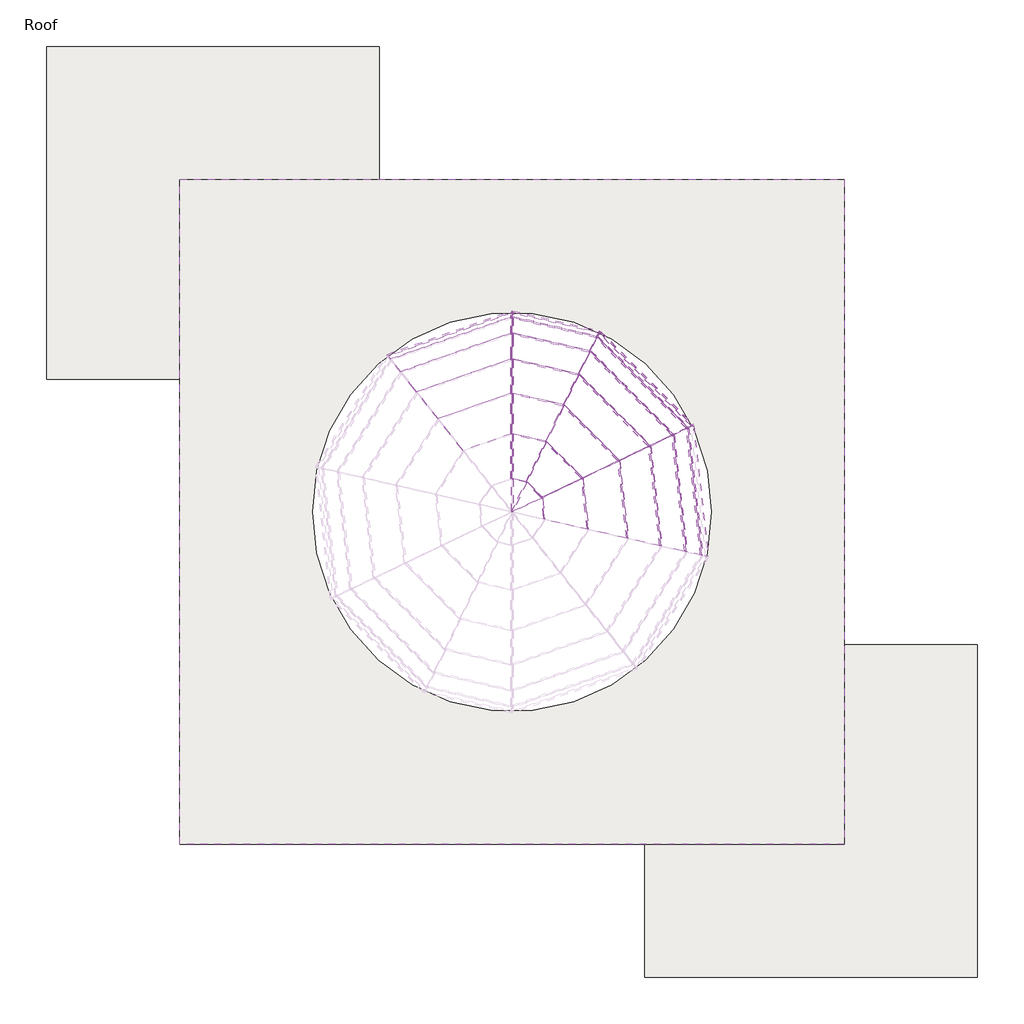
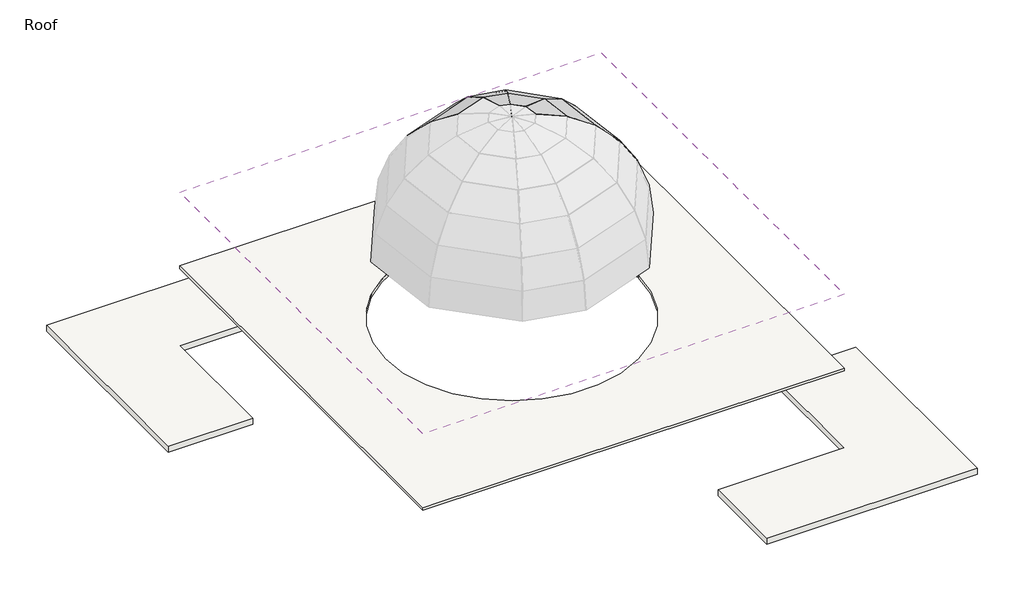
# One storey, part 3 of 3: 48 members, 23 plates, 3 roofs, 1 slab.
"""IFC4 building model written with IfcOpenShell, lengths in millimetres."""

from ifc_helpers import new_model, si_unit, point, frame, frame_2d, origin, place, context, project, spatial, polyline, circle_curve, trimmed, segment, composite_curve, outline, extrude, transform, mapped, element, save
from components import member_4177733f, member_2d90878b, member_073c649d, member_50d5fd5e, member_4b421d57, member_97883678, member_c2c97b2d, member_c267af09, member_f6a73803, member_19cfab1d, member_88023728, member_fe320f98, member_87472d51, member_b7d01548, member_1e756ab6, member_ee5d5078, member_3071623d, member_777b2020, member_0c982175, member_dd57c742, member_2fdd2993, member_88dc7c51, member_19a4d049, member_8c9737d1, member_600e1e00, member_9a5a8c15, member_656fa572, member_e5dce827, member_edda2d83, member_8e37f879, member_db3310ab, member_615ff259, system_panel_glazed_566e1773, system_panel_glazed_3fa45d0b, system_panel_glazed_15b653d3, system_panel_glazed_2a1648c4, system_panel_glazed_7bc4ba0a, system_panel_glazed_a49b1de4, system_panel_glazed_db51fd20, system_panel_glazed_a2729e2c, system_panel_glazed_c7a8e9dd, system_panel_glazed_d52d0d09, system_panel_glazed_54dd6e29, system_panel_glazed_bc119c3e

model = new_model("IFC4")

# Units and contexts
model_context = context("Model", 3, world=origin())
ifc_project = project(units=[si_unit("LENGTHUNIT", "METRE", prefix="MILLI")], contexts=[model_context])

# Site, building, storey
site = spatial("IfcSite", under=ifc_project)
building = spatial("IfcBuilding", under=site)
storey = spatial("IfcBuildingStorey", under=building, Name="Roof", Elevation=15240.0)

# Members
placement = place(None, origin())
member_shape = member_4177733f(model_context)
element("IfcMember", 1, ObjectType="Rectangular Mullion : 1\" Square", at=placement, inside=storey, context=model_context, shape_type="MappedRepresentation", body=[
    mapped(member_shape, transform((221.3369868, 4520.9964781, 18288.0), x_axis=(-0.03636859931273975, 0.10404009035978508, -0.9939079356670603), y_axis=(-0.3279728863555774, 0.9382359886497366, 0.11021349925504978), z_axis=(0.9439868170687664, 0.3299831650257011, 0.0))),
])
member_2_shape = member_2d90878b(model_context)
element("IfcMember", 2, ObjectType="Rectangular Mullion : 1\" Square", at=placement, inside=storey, context=model_context, shape_type="MappedRepresentation", body=[
    mapped(member_2_shape, transform((4368.2676656, 1933.3434219, 18288.0), x_axis=(-0.43218840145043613, 0.9017833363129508, 0.0), y_axis=(0.8956251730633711, 0.4292370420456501, 0.11666666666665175), z_axis=(0.10520805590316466, 0.05042198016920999, -0.9931711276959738))),
])
element("IfcMember", 3, ObjectType="Rectangular Mullion : 1\" Square", at=placement, inside=storey, context=model_context, shape_type="MappedRepresentation", body=[
    mapped(member_2_shape, transform((2239.3545662, 4071.6200493, 18288.0), x_axis=(-0.8998779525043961, 0.4361418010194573, 0.0), y_axis=(0.43316344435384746, 0.8937328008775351, 0.1166666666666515), z_axis=(0.05088321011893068, 0.10498576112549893, -0.9931711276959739))),
])
member_3_shape = member_073c649d(model_context)
element("IfcMember", 4, ObjectType="Rectangular Mullion : 1\" Square", at=placement, inside=storey, context=model_context, shape_type="MappedRepresentation", body=[
    mapped(member_3_shape, transform((4257.4338784, 1866.9308952, 19347.514959), x_axis=(-0.24319318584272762, -0.027015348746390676, 0.9696015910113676), y_axis=(0.9636739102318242, 0.10705064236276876, 0.2446890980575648), z_axis=(-0.11040683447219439, 0.9938864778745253, 0.0))),
])
element("IfcMember", 5, ObjectType="Rectangular Mullion : 1\" Square", at=placement, inside=storey, context=model_context, shape_type="MappedRepresentation", body=[
    mapped(member_3_shape, transform((2194.0328868, 3950.6212995, 19347.514959), x_axis=(-0.17340056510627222, -0.1726412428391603, 0.9696015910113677), y_axis=(0.687114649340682, 0.6841057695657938, 0.24468909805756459), z_axis=(-0.7055534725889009, 0.7086566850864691, 0.0))),
])
member_4_shape = member_50d5fd5e(model_context)
element("IfcMember", 6, ObjectType="Rectangular Mullion : 1\" Square", at=placement, inside=storey, context=model_context, shape_type="MappedRepresentation", body=[
    mapped(member_4_shape, transform((270.0703145, 4399.234973, 19347.514959), x_axis=(-0.053123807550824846, -0.23141269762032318, 0.971404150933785), y_axis=(0.21734508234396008, 0.9467772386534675, 0.23743204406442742), z_axis=(-0.9746481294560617, 0.22374320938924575, 0.0))),
])
member_5_shape = member_4b421d57(model_context)
element("IfcMember", 7, ObjectType="Rectangular Mullion : 1\" Square", at=placement, inside=storey, context=model_context, shape_type="MappedRepresentation", body=[
    mapped(member_5_shape, transform((3926.8366404, 1708.4889657, 20349.3452147), x_axis=(-0.46890780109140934, -0.05208907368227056, 0.8817098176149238), y_axis=(0.8763194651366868, 0.09734678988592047, 0.47179211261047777), z_axis=(-0.11040683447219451, 0.9938864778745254, 0.0))),
])
element("IfcMember", 8, ObjectType="Rectangular Mullion : 1\" Square", at=placement, inside=storey, context=model_context, shape_type="MappedRepresentation", body=[
    mapped(member_5_shape, transform((2034.1416258, 3620.7225825, 20349.3452147), x_axis=(-0.3343386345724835, -0.3328745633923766, 0.8817098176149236), y_axis=(0.624829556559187, 0.6220934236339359, 0.47179211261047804), z_axis=(-0.7055534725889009, 0.708656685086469, 0.0))),
])
member_6_shape = member_97883678(model_context)
element("IfcMember", 9, ObjectType="Rectangular Mullion : 1\" Square", at=placement, inside=storey, context=model_context, shape_type="MappedRepresentation", body=[
    mapped(member_6_shape, transform((270.0703145, 4032.6311285, 20349.3452147), x_axis=(-0.10295150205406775, -0.44846719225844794, 0.8878503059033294), y_axis=(0.19865047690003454, 0.8653416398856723, 0.460132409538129), z_axis=(-0.9746481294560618, 0.22374320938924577, 0.0))),
])
member_7_shape = member_c2c97b2d(model_context)
element("IfcMember", 10, ObjectType="Rectangular Mullion : 1\" Square", at=placement, inside=storey, context=model_context, shape_type="MappedRepresentation", body=[
    mapped(member_7_shape, transform((3395.8773015, 1454.021558, 21238.9466754), x_axis=(-0.6628942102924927, -0.07363824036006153, 0.7450829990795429), y_axis=(0.7405279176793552, 0.08226225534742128, 0.6669717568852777), z_axis=(-0.11040683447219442, 0.9938864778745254, 0.0))),
])
element("IfcMember", 11, ObjectType="Rectangular Mullion : 1\" Square", at=placement, inside=storey, context=model_context, shape_type="MappedRepresentation", body=[
    mapped(member_7_shape, transform((1777.3465033, 3090.885111, 21238.9466754), x_axis=(-0.47265399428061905, -0.4705842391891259, 0.7450829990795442), y_axis=(0.5280080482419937, 0.5256958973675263, 0.6669717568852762), z_axis=(-0.705553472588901, 0.708656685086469, 0.0))),
])
member_8_shape = member_c267af09(model_context)
element("IfcMember", 12, ObjectType="Rectangular Mullion : 1\" Square", at=placement, inside=storey, context=model_context, shape_type="MappedRepresentation", body=[
    mapped(member_8_shape, transform((270.0703145, 3443.8429823, 21238.9466754), x_axis=(-0.146568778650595, -0.6384684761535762, 0.7555631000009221), y_axis=(0.16905211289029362, 0.7364081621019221, 0.6550758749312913), z_axis=(-0.9746481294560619, 0.22374320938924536, 0.0))),
])
member_9_shape = member_f6a73803(model_context)
element("IfcMember", 13, ObjectType="Rectangular Mullion : 1\" Square", at=placement, inside=storey, context=model_context, shape_type="MappedRepresentation", body=[
    mapped(member_9_shape, transform((2693.4636479, 1117.3830087, 21967.8854838), x_axis=(-0.8157478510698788, -0.09061813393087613, 0.5712650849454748), y_axis=(0.5677726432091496, 0.06307156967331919, 0.8207656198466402), z_axis=(-0.11040683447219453, 0.9938864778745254, 0.0))),
])
element("IfcMember", 14, ObjectType="Rectangular Mullion : 1\" Square", at=placement, inside=storey, context=model_context, shape_type="MappedRepresentation", body=[
    mapped(member_9_shape, transform((1437.628587, 2389.9555917, 21967.8854838), x_axis=(-0.5816410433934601, -0.5790940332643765, 0.571265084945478), y_axis=(0.40483082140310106, 0.40305806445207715, 0.820765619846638), z_axis=(-0.7055534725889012, 0.7086566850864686, 0.0))),
])
member_10_shape = member_19cfab1d(model_context)
element("IfcMember", 15, ObjectType="Rectangular Mullion : 1\" Square", at=placement, inside=storey, context=model_context, shape_type="MappedRepresentation", body=[
    mapped(member_10_shape, transform((270.0703145, 2664.9267777, 21967.8854838), x_axis=(-0.18169395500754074, -0.791477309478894, 0.5835674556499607), y_axis=(0.13056925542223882, 0.5687729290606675, 0.812064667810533), z_axis=(-0.9746481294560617, 0.22374320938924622, 0.0))),
])
member_11_shape = member_88023728(model_context)
element("IfcMember", 16, ObjectType="Rectangular Mullion : 1\" Square", at=placement, inside=storey, context=model_context, shape_type="MappedRepresentation", body=[
    mapped(member_11_shape, transform((1857.8382007, 716.9014166, 22496.4749713), x_axis=(-0.9225634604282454, -0.10248384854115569, 0.3719861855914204), y_axis=(0.3697120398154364, 0.0410698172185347, 0.9282382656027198), z_axis=(-0.11040683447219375, 0.9938864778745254, 0.0))),
])
element("IfcMember", 17, ObjectType="Rectangular Mullion : 1\" Square", at=placement, inside=storey, context=model_context, shape_type="MappedRepresentation", body=[
    mapped(member_11_shape, transform((1033.4836302, 1556.0957429, 22496.4749713), x_axis=(-0.6578022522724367, -0.6549217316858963, 0.3719861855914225), y_axis=(0.26361049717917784, 0.26245614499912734, 0.9282382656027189), z_axis=(-0.7055534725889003, 0.7086566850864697, 0.0))),
])
member_12_shape = member_fe320f98(model_context)
element("IfcMember", 18, ObjectType="Rectangular Mullion : 1\" Square", at=placement, inside=storey, context=model_context, shape_type="MappedRepresentation", body=[
    mapped(member_12_shape, transform((270.0703145, 1738.2901749, 22496.4749713), x_axis=(-0.20674485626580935, -0.9006015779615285, 0.38232625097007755), y_axis=(0.0855429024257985, 0.3726335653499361, 0.9240274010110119), z_axis=(-0.9746481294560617, 0.22374320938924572, 0.0))),
])
member_13_shape = member_87472d51(model_context)
element("IfcMember", 19, ObjectType="Rectangular Mullion : 1\" Square", at=placement, inside=storey, context=model_context, shape_type="MappedRepresentation", body=[
    mapped(member_13_shape, transform((934.4961231, 274.3807795, 22795.9363771), x_axis=(-0.9814480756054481, -0.10902510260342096, 0.1577124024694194), y_axis=(0.15674822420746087, 0.017412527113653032, 0.9874850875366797), z_axis=(-0.11040683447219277, 0.9938864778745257, 0.0))),
])
element("IfcMember", 20, ObjectType="Rectangular Mullion : 1\" Square", at=placement, inside=storey, context=model_context, shape_type="MappedRepresentation", body=[
    mapped(member_13_shape, transform((586.9150804, 634.7046007, 22795.9363771), x_axis=(-0.6997879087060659, -0.6967235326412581, 0.1577124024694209), y_axis=(0.11176394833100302, 0.11127453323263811, 0.9874850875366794), z_axis=(-0.7055534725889, 0.7086566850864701, 0.0))),
])
member_14_shape = member_b7d01548(model_context)
element("IfcMember", 21, ObjectType="Rectangular Mullion : 1\" Square", at=placement, inside=storey, context=model_context, shape_type="MappedRepresentation", body=[
    mapped(member_14_shape, transform((270.0703145, 714.3833889, 22795.9363771), x_axis=(-0.2207619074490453, -0.9616612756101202, 0.16270147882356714), y_axis=(0.036403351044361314, 0.15857669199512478, 0.986675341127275), z_axis=(-0.9746481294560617, 0.2237432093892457, 0.0))),
])
member_15_shape = member_1e756ab6(model_context)
element("IfcMember", 22, ObjectType="Rectangular Mullion : 1\" Square", at=placement, inside=storey, context=model_context, shape_type="MappedRepresentation", body=[
    mapped(member_15_shape, transform((4359.3071365, 1942.3433618, 18288.0), x_axis=(0.0781035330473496, 0.07776151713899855, -0.9939079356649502), y_axis=(0.7043395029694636, 0.7012551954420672, 0.11021349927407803), z_axis=(0.7055534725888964, -0.7086566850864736, 0.0))),
])
member_16_shape = member_ee5d5078(model_context)
element("IfcMember", 23, ObjectType="Rectangular Mullion : 1\" Square", at=placement, inside=storey, context=model_context, shape_type="MappedRepresentation", body=[
    mapped(member_16_shape, transform((2226.976535, 4074.4615881, 18288.0), x_axis=(0.02545027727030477, 0.11086399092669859, -0.993509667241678), y_axis=(0.22229104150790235, 0.9683223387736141, 0.11374770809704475), z_axis=(0.97464812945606, -0.22374320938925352, 0.0))),
])
member_17_shape = member_3071623d(model_context)
element("IfcMember", 24, ObjectType="Rectangular Mullion : 1\" Square", at=placement, inside=storey, context=model_context, shape_type="MappedRepresentation", body=[
    mapped(member_17_shape, transform((245.314252, 4404.9180505, 19347.514959), x_axis=(0.9446871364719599, 0.3257332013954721, 0.038263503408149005), y_axis=(-0.32797288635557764, 0.9382359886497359, 0.11021349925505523), z_axis=(0.0, -0.1166666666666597, 0.9931711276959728))),
])
member_18_shape = member_777b2020(model_context)
element("IfcMember", 25, ObjectType="Rectangular Mullion : 1\" Square", at=placement, inside=storey, context=model_context, shape_type="MappedRepresentation", body=[
    mapped(member_18_shape, transform((245.314252, 4038.314206, 20349.3452147), x_axis=(0.9501154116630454, 0.2929034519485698, 0.10718335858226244), y_axis=(-0.31189854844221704, 0.8922519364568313, 0.32650540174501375), z_axis=(0.0, -0.343648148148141, 0.9390984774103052))),
])
member_19_shape = member_0c982175(model_context)
element("IfcMember", 26, ObjectType="Rectangular Mullion : 1\" Square", at=placement, inside=storey, context=model_context, shape_type="MappedRepresentation", body=[
    mapped(member_19_shape, transform((245.314252, 3449.5260598, 21238.9466754), x_axis=(0.9600430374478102, 0.23336811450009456, 0.15445610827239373), y_axis=(-0.27985240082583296, 0.8005771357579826, 0.5298668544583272), z_axis=(0.0, -0.5519198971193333, 0.8338971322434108))),
])
member_20_shape = member_dd57c742(model_context)
element("IfcMember", 27, ObjectType="Rectangular Mullion : 1\" Square", at=placement, inside=storey, context=model_context, shape_type="MappedRepresentation", body=[
    mapped(member_20_shape, transform((245.314252, 2670.6098553, 21967.8854838), x_axis=(0.9726395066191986, 0.1587427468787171, 0.169626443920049), y_axis=(-0.23231958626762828, 0.664599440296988, 0.7101656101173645), z_axis=(0.0, -0.7301426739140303, 0.6832947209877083))),
])
member_21_shape = member_2fdd2993(model_context)
element("IfcMember", 28, ObjectType="Rectangular Mullion : 1\" Square", at=placement, inside=storey, context=model_context, shape_type="MappedRepresentation", body=[
    mapped(member_21_shape, transform((245.314252, 1743.9732525, 22496.4749713), x_axis=(0.9853292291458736, 0.08456258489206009, 0.14824128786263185), y_axis=(-0.17066432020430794, 0.4882214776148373, 0.855870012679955), z_axis=(0.0, -0.8686132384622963, 0.4954907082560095))),
])
member_22_shape = member_88dc7c51(model_context)
element("IfcMember", 29, ObjectType="Rectangular Mullion : 1\" Square", at=placement, inside=storey, context=model_context, shape_type="MappedRepresentation", body=[
    mapped(member_22_shape, transform((245.314252, 720.0664665, 22795.9363771), x_axis=(0.995220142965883, 0.027413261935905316, 0.09373035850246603), y_axis=(-0.09765688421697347, 0.2793682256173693, 0.955204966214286), z_axis=(0.0, -0.9597926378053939, 0.2807099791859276))),
])
member_23_shape = member_19a4d049(model_context)
element("IfcMember", 30, ObjectType="Rectangular Mullion : 1\" Square", at=placement, inside=storey, context=model_context, shape_type="MappedRepresentation", body=[
    mapped(member_23_shape, transform((4256.0317116, 1879.5532535, 19347.514959), x_axis=(-0.43218840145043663, 0.9017833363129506, 0.0), y_axis=(0.8468633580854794, 0.40586746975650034, 0.34364814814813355), z_axis=(0.3098961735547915, 0.14852074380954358, -0.9390984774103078))),
])
element("IfcMember", 31, ObjectType="Rectangular Mullion : 1\" Square", at=placement, inside=storey, context=model_context, shape_type="MappedRepresentation", body=[
    mapped(member_23_shape, transform((3925.4344736, 1721.111324, 20349.3452147), x_axis=(-0.4321884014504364, 0.9017833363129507, 0.0), y_axis=(0.7519945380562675, 0.3604006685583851, 0.5519198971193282), z_axis=(0.49771216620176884, 0.2385333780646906, -0.8338971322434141))),
])
element("IfcMember", 32, ObjectType="Rectangular Mullion : 1\" Square", at=placement, inside=storey, context=model_context, shape_type="MappedRepresentation", body=[
    mapped(member_23_shape, transform((3394.4751347, 1466.6439162, 21238.9466754), x_axis=(-0.4321884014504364, 0.9017833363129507, 0.0), y_axis=(0.6161837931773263, 0.2953120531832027, 0.7301426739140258), z_axis=(0.6584304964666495, 0.3155591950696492, -0.6832947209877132))),
])
element("IfcMember", 33, ObjectType="Rectangular Mullion : 1\" Square", at=placement, inside=storey, context=model_context, shape_type="MappedRepresentation", body=[
    mapped(member_23_shape, transform((2692.0614811, 1130.0053669, 21967.8854838), x_axis=(-0.43218840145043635, 0.9017833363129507, 0.0), y_axis=(0.446825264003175, 0.2141453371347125, 0.8686132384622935), z_axis=(0.7833009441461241, 0.37540456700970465, -0.4954907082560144))),
])
element("IfcMember", 34, ObjectType="Rectangular Mullion : 1\" Square", at=placement, inside=storey, context=model_context, shape_type="MappedRepresentation", body=[
    mapped(member_23_shape, transform((2185.0723577, 3959.6212394, 19347.514959), x_axis=(-0.8998779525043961, 0.4361418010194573, 0.0), y_axis=(0.4095801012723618, 0.8450740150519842, 0.34364814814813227), z_axis=(0.14987932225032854, 0.30924139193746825, -0.9390984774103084))),
])
element("IfcMember", 35, ObjectType="Rectangular Mullion : 1\" Square", at=placement, inside=storey, context=model_context, shape_type="MappedRepresentation", body=[
    mapped(member_23_shape, transform((2025.1810967, 3629.7225224, 20349.3452147), x_axis=(-0.8998779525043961, 0.4361418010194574, 0.0), y_axis=(0.3636973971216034, 0.7504056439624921, 0.5519198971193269), z_axis=(0.24071533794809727, 0.49666054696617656, -0.8338971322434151))),
])
element("IfcMember", 36, ObjectType="Rectangular Mullion : 1\" Square", at=placement, inside=storey, context=model_context, shape_type="MappedRepresentation", body=[
    mapped(member_23_shape, transform((1768.3859742, 3099.8850509, 21238.9466754), x_axis=(-0.8998779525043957, 0.4361418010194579, 0.0), y_axis=(0.2980133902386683, 0.6148818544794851, 0.7301426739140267), z_axis=(0.31844574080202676, 0.6570392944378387, -0.6832947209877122))),
])
element("IfcMember", 37, ObjectType="Rectangular Mullion : 1\" Square", at=placement, inside=storey, context=model_context, shape_type="MappedRepresentation", body=[
    mapped(member_23_shape, transform((1428.6680579, 2398.9555316, 21967.8854838), x_axis=(-0.8998779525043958, 0.4361418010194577, 0.0), y_axis=(0.2161042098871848, 0.44588116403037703, 0.8686132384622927), z_axis=(0.3788385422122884, 0.7816459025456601, -0.49549070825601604))),
])
member_24_shape = member_8c9737d1(model_context)
element("IfcMember", 38, ObjectType="Rectangular Mullion : 1\" Square", at=placement, inside=storey, context=model_context, shape_type="MappedRepresentation", body=[
    mapped(member_24_shape, transform((1856.4360339, 729.5237749, 22496.4749713), x_axis=(-0.4321884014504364, 0.9017833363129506, 0.0), y_axis=(0.25313958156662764, 0.12131959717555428, 0.9597926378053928), z_axis=(0.8655250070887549, 0.41481124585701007, -0.2807099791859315))),
])
element("IfcMember", 39, ObjectType="Rectangular Mullion : 1\" Square", at=placement, inside=storey, context=model_context, shape_type="MappedRepresentation", body=[
    mapped(member_24_shape, transform((1024.5231011, 1565.0956828, 22496.4749713), x_axis=(-0.899877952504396, 0.43614180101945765, 0.0), y_axis=(0.12242935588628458, 0.2526047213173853, 0.9597926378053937), z_axis=(0.41860568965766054, 0.8636962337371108, -0.2807099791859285))),
])
member_25_shape = member_600e1e00(model_context)
element("IfcMember", 40, ObjectType="Rectangular Mullion : 1\" Square", at=placement, inside=storey, context=model_context, shape_type="MappedRepresentation", body=[
    mapped(member_25_shape, transform((933.0939563, 287.0031378, 22795.9363771), x_axis=(-0.4321884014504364, 0.9017833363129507, 0.0), y_axis=(0.0757309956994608, 0.03629481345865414, 0.9964675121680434), z_axis=(0.8985977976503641, 0.43066170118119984, -0.08397914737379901))),
])
element("IfcMember", 41, ObjectType="Rectangular Mullion : 1\" Square", at=placement, inside=storey, context=model_context, shape_type="MappedRepresentation", body=[
    mapped(member_25_shape, transform((577.9545513, 643.7045406, 22795.9363771), x_axis=(-0.8998779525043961, 0.4361418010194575, 0.0), y_axis=(0.036626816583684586, 0.07557098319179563, 0.9964675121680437), z_axis=(0.43460113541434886, 0.8966991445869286, -0.08397914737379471))),
])
member_26_shape = member_9a5a8c15(model_context)
element("IfcMember", 42, ObjectType="Rectangular Mullion : 1\" Square", at=placement, inside=storey, context=model_context, shape_type="MappedRepresentation", body=[
    mapped(member_26_shape, transform((245.314252, 4529.3780505, 18288.0), x_axis=(-0.9749803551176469, 0.22077304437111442, 0.02593395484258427), y_axis=(0.22229104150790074, 0.9683223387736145, 0.11374770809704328), z_axis=(0.0, 0.1166666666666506, -0.9931711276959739))),
])
member_27_shape = member_656fa572(model_context)
element("IfcMember", 43, ObjectType="Rectangular Mullion : 1\" Square", at=placement, inside=storey, context=model_context, shape_type="MappedRepresentation", body=[
    mapped(member_27_shape, transform((245.314252, 4404.9180505, 19347.514959), x_axis=(-0.9775419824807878, 0.19790633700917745, 0.07242067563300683), y_axis=(0.2107407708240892, 0.9180081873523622, 0.33593049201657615), z_axis=(0.0, 0.3436481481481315, -0.9390984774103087))),
])
member_28_shape = member_e5dce827(model_context)
element("IfcMember", 44, ObjectType="Rectangular Mullion : 1\" Square", at=placement, inside=storey, context=model_context, shape_type="MappedRepresentation", body=[
    mapped(member_28_shape, transform((245.314252, 4038.314206, 20349.3452147), x_axis=(-0.9821656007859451, 0.1567875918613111, 0.10377082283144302), y_axis=(0.18801790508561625, 0.8190250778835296, 0.5420767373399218), z_axis=(0.0, 0.5519198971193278, -0.8338971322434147))),
])
member_29_shape = member_edda2d83(model_context)
element("IfcMember", 45, ObjectType="Rectangular Mullion : 1\" Square", at=placement, inside=storey, context=model_context, shape_type="MappedRepresentation", body=[
    mapped(member_29_shape, transform((245.314252, 3449.5260598, 21238.9466754), x_axis=(-0.9879200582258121, 0.10588634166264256, 0.11314610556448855), y_axis=(0.1549643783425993, 0.6750405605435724, 0.7213225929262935), z_axis=(0.0, 0.7301426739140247, -0.6832947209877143))),
])
member_30_shape = member_8e37f879(model_context)
element("IfcMember", 46, ObjectType="Rectangular Mullion : 1\" Square", at=placement, inside=storey, context=model_context, shape_type="MappedRepresentation", body=[
    mapped(member_30_shape, transform((245.314252, 2670.6098553, 21967.8854838), x_axis=(-0.9935929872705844, 0.05599916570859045, 0.0981685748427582), y_axis=(0.11301758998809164, 0.4923160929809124, 0.8630480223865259), z_axis=(0.0, 0.8686132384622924, -0.49549070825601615))),
])
member_31_shape = member_db3310ab(model_context)
element("IfcMember", 47, ObjectType="Rectangular Mullion : 1\" Square", at=placement, inside=storey, context=model_context, shape_type="MappedRepresentation", body=[
    mapped(member_31_shape, transform((245.314252, 1743.9732525, 22496.4749713), x_axis=(-0.9979301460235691, 0.01805168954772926, 0.06172163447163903), y_axis=(0.06430725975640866, 0.2801289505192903, 0.9578060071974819), z_axis=(0.0, 0.9597926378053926, -0.28070997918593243))),
])
member_32_shape = member_615ff259(model_context)
element("IfcMember", 48, ObjectType="Rectangular Mullion : 1\" Square", at=placement, inside=storey, context=model_context, shape_type="MappedRepresentation", body=[
    mapped(member_32_shape, transform((245.314252, 720.0664665, 22795.9363771), x_axis=(-0.9998154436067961, 0.0016133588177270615, 0.019143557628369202), y_axis=(0.01921142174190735, 0.0839636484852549, 0.9962836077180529), z_axis=(0.0, 0.9964675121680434, -0.08397914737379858))),
])

# Plates
system_panel_glazed_shape = system_panel_glazed_566e1773(model_context)
element("IfcPlate", 49, ObjectType="System Panel : Glazed", at=placement, inside=storey, context=model_context, shape_type="MappedRepresentation", body=[
    mapped(system_panel_glazed_shape, transform((-1178.8626399, 4031.5380491, 18288.0), x_axis=(-0.9439868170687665, -0.3299831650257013, 0.0), y_axis=(0.3279728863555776, -0.9382359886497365, -0.11021349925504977), z_axis=(0.036368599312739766, -0.10404009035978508, 0.9939079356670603))),
])
element("IfcPlate", 50, ObjectType="System Panel : Glazed", at=placement, inside=storey, context=model_context, shape_type="MappedRepresentation", body=[
    mapped(system_panel_glazed_shape, transform((4534.836583, 433.8837606, 18288.0), x_axis=(-0.1104068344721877, 0.9938864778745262, 0.0), y_axis=(-0.9878316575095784, -0.10973422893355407, -0.11021349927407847), z_axis=(-0.10953970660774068, -0.012168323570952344, 0.9939079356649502))),
])
element("IfcPlate", 51, ObjectType="System Panel : Glazed", at=placement, inside=storey, context=model_context, shape_type="MappedRepresentation", body=[
    mapped(system_panel_glazed_shape, transform((3303.8111159, 3002.4817356, 18288.0), x_axis=(-0.7055534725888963, 0.7086566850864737, 0.0), y_axis=(-0.7043395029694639, -0.701255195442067, -0.11021349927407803), z_axis=(-0.07810353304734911, -0.07776151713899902, 0.9939079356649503))),
])
system_panel_glazed_2_shape = system_panel_glazed_3fa45d0b(model_context)
element("IfcPlate", 52, ObjectType="System Panel : Glazed", at=placement, inside=storey, context=model_context, shape_type="MappedRepresentation", body=[
    mapped(system_panel_glazed_2_shape, transform((1242.3344091, 4300.4990499, 18288.0), x_axis=(-0.9746481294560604, 0.22374320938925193, 0.0), y_axis=(-0.22229104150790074, -0.9683223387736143, -0.11374770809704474), z_axis=(-0.025450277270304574, -0.11086399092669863, 0.993509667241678))),
])
system_panel_glazed_3_shape = system_panel_glazed_15b653d3(model_context)
element("IfcPlate", 53, ObjectType="System Panel : Glazed", at=placement, inside=storey, context=model_context, shape_type="MappedRepresentation", body=[
    mapped(system_panel_glazed_3_shape, transform((4418.0662529, 420.9122163, 19347.514959), x_axis=(-0.1104068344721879, 0.9938864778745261, 0.0), y_axis=(-0.9394168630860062, -0.10435602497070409, -0.32650540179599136), z_axis=(-0.324509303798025, -0.036048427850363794, 0.9451953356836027))),
])
element("IfcPlate", 54, ObjectType="System Panel : Glazed", at=placement, inside=storey, context=model_context, shape_type="MappedRepresentation", body=[
    mapped(system_panel_glazed_3_shape, transform((3220.5520346, 2919.5872464, 19347.514959), x_axis=(-0.7055534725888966, 0.7086566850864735, 0.0), y_axis=(-0.6698189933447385, -0.6668858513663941, -0.32650540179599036), z_axis=(-0.23138023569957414, -0.23036702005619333, 0.9451953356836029))),
])
element("IfcPlate", 55, ObjectType="System Panel : Glazed", at=placement, inside=storey, context=model_context, shape_type="MappedRepresentation", body=[
    mapped(system_panel_glazed_3_shape, transform((-1140.0933801, 3920.6303602, 19347.514959), x_axis=(-0.9439868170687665, -0.3299831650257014, 0.0), y_axis=(0.31189854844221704, -0.8922519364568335, -0.3265054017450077), z_axis=(0.10774128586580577, -0.3082167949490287, 0.9451953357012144))),
])
system_panel_glazed_4_shape = system_panel_glazed_2a1648c4(model_context)
element("IfcPlate", 56, ObjectType="System Panel : Glazed", at=placement, inside=storey, context=model_context, shape_type="MappedRepresentation", body=[
    mapped(system_panel_glazed_4_shape, transform((1215.1933048, 4182.2696449, 19347.514959), x_axis=(-0.9746481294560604, 0.22374320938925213, 0.0), y_axis=(-0.21074077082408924, -0.9180081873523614, -0.33593049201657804), z_axis=(-0.0751621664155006, -0.3274140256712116, 0.9418867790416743))),
])
system_panel_glazed_5_shape = system_panel_glazed_7bc4ba0a(model_context)
element("IfcPlate", 57, ObjectType="System Panel : Glazed", at=placement, inside=storey, context=model_context, shape_type="MappedRepresentation", body=[
    mapped(system_panel_glazed_5_shape, transform((4074.1127582, 382.7038118, 20349.3452147), x_axis=(-0.11040683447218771, 0.9938864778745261, 0.0), y_axis=(-0.8428960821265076, -0.09363392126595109, -0.5298668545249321), z_axis=(-0.5266275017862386, -0.058500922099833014, 0.8480808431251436))),
])
element("IfcPlate", 58, ObjectType="System Panel : Glazed", at=placement, inside=storey, context=model_context, shape_type="MappedRepresentation", body=[
    mapped(system_panel_glazed_5_shape, transform((2975.3077852, 2675.4169232, 20349.3452147), x_axis=(-0.7055534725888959, 0.7086566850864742, 0.0), y_axis=(-0.6009981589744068, -0.598366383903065, -0.5298668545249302), z_axis=(-0.37549368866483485, -0.3738493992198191, 0.8480808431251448))),
])
element("IfcPlate", 59, ObjectType="System Panel : Glazed", at=placement, inside=storey, context=model_context, shape_type="MappedRepresentation", body=[
    mapped(system_panel_glazed_5_shape, transform((-1025.8963714, 3593.9456012, 20349.3452147), x_axis=(-0.9439868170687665, -0.32998316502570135, 0.0), y_axis=(0.27985240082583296, -0.8005771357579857, -0.5298668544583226), z_axis=(0.17484714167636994, -0.5001873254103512, 0.8480808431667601))),
])
system_panel_glazed_6_shape = system_panel_glazed_a49b1de4(model_context)
element("IfcPlate", 60, ObjectType="System Panel : Glazed", at=placement, inside=storey, context=model_context, shape_type="MappedRepresentation", body=[
    mapped(system_panel_glazed_6_shape, transform((1135.2476743, 3834.0183642, 20349.3452147), x_axis=(-0.9746481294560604, 0.22374320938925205, 0.0), y_axis=(-0.18801790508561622, -0.8190250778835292, -0.5420767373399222), z_axis=(-0.12128598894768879, -0.5283340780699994, 0.8403289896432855))),
])
system_panel_glazed_7_shape = system_panel_glazed_db51fd20(model_context)
element("IfcPlate", 61, ObjectType="System Panel : Glazed", at=placement, inside=storey, context=model_context, shape_type="MappedRepresentation", body=[
    mapped(system_panel_glazed_7_shape, transform((3521.7024561, 321.3387826, 21238.9466754), x_axis=(-0.11040683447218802, 0.9938864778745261, 0.0), y_axis=(-0.6997305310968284, -0.07773023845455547, -0.7101656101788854), z_axis=(-0.7058239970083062, -0.07840713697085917, 0.7040346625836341))),
])
element("IfcPlate", 62, ObjectType="System Panel : Glazed", at=placement, inside=storey, context=model_context, shape_type="MappedRepresentation", body=[
    mapped(system_panel_glazed_7_shape, transform((2581.4305544, 2283.2644836, 21238.9466754), x_axis=(-0.7055534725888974, 0.7086566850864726, 0.0), y_axis=(-0.4989188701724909, -0.49673410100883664, -0.7101656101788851), z_axis=(-0.5032636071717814, -0.5010598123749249, 0.7040346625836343))),
])
element("IfcPlate", 63, ObjectType="System Panel : Glazed", at=placement, inside=storey, context=model_context, shape_type="MappedRepresentation", body=[
    mapped(system_panel_glazed_7_shape, transform((-842.4890066, 3069.2699421, 21238.9466754), x_axis=(-0.9439868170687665, -0.32998316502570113, 0.0), y_axis=(0.23231958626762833, -0.664599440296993, -0.7101656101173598), z_axis=(0.23434269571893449, -0.670386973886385, 0.7040346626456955))),
])
system_panel_glazed_8_shape = system_panel_glazed_a2729e2c(model_context)
element("IfcPlate", 64, ObjectType="System Panel : Glazed", at=placement, inside=storey, context=model_context, shape_type="MappedRepresentation", body=[
    mapped(system_panel_glazed_8_shape, transform((1006.8501131, 3274.7055554, 21238.9466754), x_axis=(-0.9746481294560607, 0.22374320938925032, 0.0), y_axis=(-0.1549643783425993, -0.6750405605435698, -0.7213225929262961), z_axis=(-0.1613910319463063, -0.7030357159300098, 0.6925992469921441))),
])
system_panel_glazed_9_shape = system_panel_glazed_c7a8e9dd(model_context)
element("IfcPlate", 65, ObjectType="System Panel : Glazed", at=placement, inside=storey, context=model_context, shape_type="MappedRepresentation", body=[
    mapped(system_panel_glazed_9_shape, transform((2790.9110183, 240.1581135, 21967.8854838), x_axis=(-0.11040683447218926, 0.993886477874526, 0.0), y_axis=(-0.5140291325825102, -0.057101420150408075, -0.8558700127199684), z_axis=(-0.8506376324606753, -0.09449389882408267, 0.5171909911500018))),
])
element("IfcPlate", 66, ObjectType="System Panel : Glazed", at=placement, inside=storey, context=model_context, shape_type="MappedRepresentation", body=[
    mapped(system_panel_glazed_9_shape, transform((2060.3647695, 1764.4804493, 21967.8854838), x_axis=(-0.7055534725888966, 0.7086566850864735, 0.0), y_axis=(-0.3665108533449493, -0.3649058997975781, -0.8558700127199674), z_axis=(-0.6065180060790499, -0.6038620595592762, 0.5171909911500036))),
])
element("IfcPlate", 67, ObjectType="System Panel : Glazed", at=placement, inside=storey, context=model_context, shape_type="MappedRepresentation", body=[
    mapped(system_panel_glazed_9_shape, transform((-599.8567976, 2375.1690579, 21967.8854838), x_axis=(-0.9439868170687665, -0.32998316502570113, 0.0), y_axis=(0.17066432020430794, -0.4882214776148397, -0.8558700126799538), z_axis=(0.28242269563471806, -0.8079300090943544, 0.5171909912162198))),
])
system_panel_glazed_10_shape = system_panel_glazed_d52d0d09(model_context)
element("IfcPlate", 68, ObjectType="System Panel : Glazed", at=placement, inside=storey, context=model_context, shape_type="MappedRepresentation", body=[
    mapped(system_panel_glazed_10_shape, transform((836.9911549, 2534.7826934, 21967.8854838), x_axis=(-0.9746481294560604, 0.223743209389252, 0.0), y_axis=(-0.11301758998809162, -0.4923160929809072, -0.8630480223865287), z_axis=(-0.193101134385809, -0.8411681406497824, 0.5051218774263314))),
])
system_panel_glazed_11_shape = system_panel_glazed_54dd6e29(model_context)
element("IfcPlate", 69, ObjectType="System Panel : Glazed", at=placement, inside=storey, context=model_context, shape_type="MappedRepresentation", body=[
    mapped(system_panel_glazed_11_shape, transform((1921.5259789, 143.5816409, 22496.4749713), x_axis=(-0.11040683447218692, 0.9938864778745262, 0.0), y_axis=(-0.29413578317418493, -0.03267435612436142, -0.9552049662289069), z_axis=(-0.9493652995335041, -0.10546115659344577, 0.29594504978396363))),
])
element("IfcPlate", 70, ObjectType="System Panel : Glazed", at=placement, inside=storey, context=model_context, shape_type="MappedRepresentation", body=[
    mapped(system_panel_glazed_11_shape, transform((1440.4795675, 1147.3097288, 22496.4749713), x_axis=(-0.7055534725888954, 0.7086566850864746, 0.0), y_axis=(-0.20972343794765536, -0.2088050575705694, -0.9552049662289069), z_axis=(-0.6769123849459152, -0.6739481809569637, 0.29594504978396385))),
])
system_panel_glazed_12_shape = system_panel_glazed_bc119c3e(model_context)
element("IfcPlate", 71, ObjectType="System Panel : Glazed", at=placement, inside=storey, context=model_context, shape_type="MappedRepresentation", body=[
    mapped(system_panel_glazed_12_shape, transform((634.9186765, 1654.5344676, 22496.4749713), x_axis=(-0.9746481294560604, 0.2237432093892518, 0.0), y_axis=(-0.06430725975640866, -0.28012895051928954, -0.9578060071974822), z_axis=(-0.2143025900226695, -0.933523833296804, 0.287415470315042))),
])

# Roofs
element("IfcRoof", 72, ObjectType="Generic - 9\"", at=placement, inside=storey, context=model_context, shape_type="SweptSolid", body=[
    extrude(outline(polyline([(7865.314252, 7577.3780505), (7865.314252, -7662.6219495), (-7374.685748, -7662.6219495), (-7374.685748, 7577.3780505), (7865.314252, 7577.3780505)]), holes=[composite_curve([segment(trimmed(circle_curve(frame_2d((245.314252, -42.6219495)), 4572.0), [point((4817.314252, -42.6219495))], [point((-4326.685748, -42.6219495))], True, "CARTESIAN"), True, "CONTINUOUS"), segment(trimmed(circle_curve(frame_2d((245.314252, -42.6219495)), 4572.0), [point((-4326.685748, -42.6219495))], [point((4817.314252, -42.6219495))], True, "CARTESIAN"), True, "CONTINUOUS")], self_intersect=False)]), frame((0.0, 0.0, 18059.4), z_axis=(0.0, 0.0, 1.0), x_axis=(1.0, 0.0, 0.0)), (0.0, 0.0, 1.0), 228.6),
])
element("IfcRoof", 73, ObjectType="Generic - 9\"", at=placement, inside=storey, context=model_context, shape_type="SweptSolid", body=[
    extrude(outline(polyline([(-7374.685748, 3005.3780505), (-10422.685748, 3005.3780505), (-10422.685748, 10625.3780505), (-2802.685748, 10625.3780505), (-2802.685748, 7577.3780505), (-7374.685748, 7577.3780505), (-7374.685748, 3005.3780505)])), frame((0.0, 0.0, 11963.4), z_axis=(0.0, 0.0, 1.0), x_axis=(1.0, 0.0, 0.0)), (0.0, 0.0, 1.0), 228.6),
])
element("IfcRoof", 74, ObjectType="Generic - 9\"", at=placement, inside=storey, context=model_context, shape_type="SweptSolid", body=[
    extrude(outline(polyline([(3293.314252, -7662.6219495), (7865.314252, -7662.6219495), (7865.314252, -3090.6219495), (10913.314252, -3090.6219495), (10913.314252, -10710.6219495), (3293.314252, -10710.6219495), (3293.314252, -7662.6219495)])), frame((0.0, 0.0, 11963.4), z_axis=(0.0, 0.0, 1.0), x_axis=(1.0, 0.0, 0.0)), (0.0, 0.0, 1.0), 228.6),
])

# Slab
element("IfcSlab", 75, ObjectType="LW Concrete on Metal Deck", at=placement, inside=storey, context=model_context, shape_type="SweptSolid", body=[
    extrude(outline(polyline([(7865.314252, 7577.3780505), (7865.314252, -7662.6219495), (-7374.685748, -7662.6219495), (-7374.685748, 7577.3780505), (7865.314252, 7577.3780505)]), holes=[composite_curve([segment(trimmed(circle_curve(frame_2d((245.314252, -42.6219495)), 4572.0), [point((4817.314252, -42.6219495))], [point((-4326.685748, -42.6219495))], True, "CARTESIAN"), True, "CONTINUOUS"), segment(trimmed(circle_curve(frame_2d((245.314252, -42.6219495)), 4572.0), [point((-4326.685748, -42.6219495))], [point((4817.314252, -42.6219495))], True, "CARTESIAN"), True, "CONTINUOUS")], self_intersect=False)]), frame((0.0, 0.0, 15135.225), z_axis=(0.0, 0.0, 1.0), x_axis=(1.0, 0.0, 0.0)), (0.0, 0.0, 1.0), 104.775),
])

save(model, "model.ifc")
